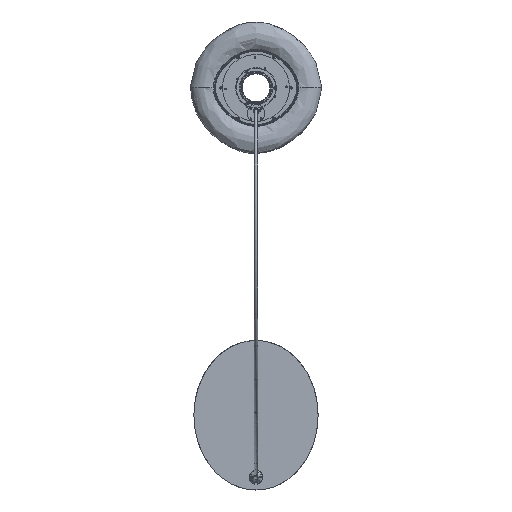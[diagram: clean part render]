
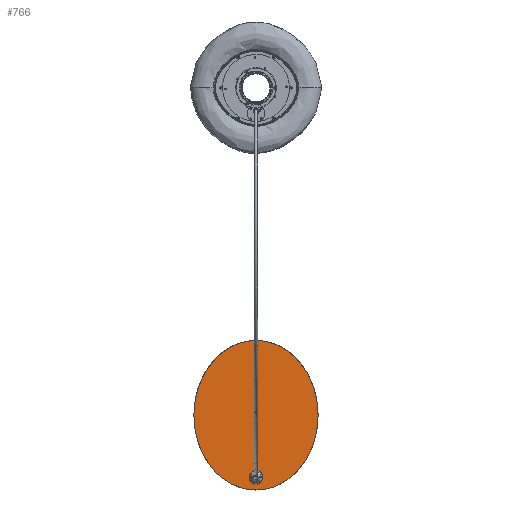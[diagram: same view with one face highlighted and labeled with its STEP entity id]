
A CAD part, top view. The second image highlights one B-rep face of the part: STEP entity #766.
In plain terms, the highlighted planar face has unit normal (0, 0, 1).
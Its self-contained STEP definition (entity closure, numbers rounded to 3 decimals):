
#766=ADVANCED_FACE($,(#1364,#866,#867),#7152,.T.);
#866=FACE_BOUND($,#1959,.T.);
#867=FACE_BOUND($,#1960,.T.);
#1364=FACE_OUTER_BOUND($,#1958,.T.);
#1958=EDGE_LOOP($,(#4491,#4492));
#1959=EDGE_LOOP($,(#4493,#4494));
#1960=EDGE_LOOP($,(#4495,#4496));
#4491=ORIENTED_EDGE($,*,*,#5799,.T.);
#4492=ORIENTED_EDGE($,*,*,#5800,.T.);
#4493=ORIENTED_EDGE($,*,*,#5797,.T.);
#4494=ORIENTED_EDGE($,*,*,#5796,.T.);
#4495=ORIENTED_EDGE($,*,*,#5805,.T.);
#4496=ORIENTED_EDGE($,*,*,#5804,.T.);
#5796=EDGE_CURVE($,#6636,#6637,#7613,.T.);
#5797=EDGE_CURVE($,#6637,#6636,#7614,.T.);
#5799=EDGE_CURVE($,#6638,#6639,#7615,.T.);
#5800=EDGE_CURVE($,#6639,#6638,#7616,.T.);
#5804=EDGE_CURVE($,#6642,#6643,#7620,.T.);
#5805=EDGE_CURVE($,#6643,#6642,#7621,.T.);
#6636=VERTEX_POINT($,#118659);
#6637=VERTEX_POINT($,#118660);
#6638=VERTEX_POINT($,#118661);
#6639=VERTEX_POINT($,#118662);
#6642=VERTEX_POINT($,#118665);
#6643=VERTEX_POINT($,#118666);
#7152=PLANE($,#9060);
#7613=(
BOUNDED_CURVE()
B_SPLINE_CURVE(2,(#118469,#118470,#118471,#118472,#118473),.UNSPECIFIED.,
.F.,.F.)
B_SPLINE_CURVE_WITH_KNOTS((3,2,3),(-10.21,-5.105,0.),
.UNSPECIFIED.)
CURVE()
GEOMETRIC_REPRESENTATION_ITEM()
RATIONAL_B_SPLINE_CURVE((1.,0.707,1.,0.707,1.))
REPRESENTATION_ITEM($)
);
#7614=(
BOUNDED_CURVE()
B_SPLINE_CURVE(2,(#118474,#118475,#118476,#118477,#118478),.UNSPECIFIED.,
.F.,.F.)
B_SPLINE_CURVE_WITH_KNOTS((3,2,3),(-20.42,-15.315,-10.21),
.UNSPECIFIED.)
CURVE()
GEOMETRIC_REPRESENTATION_ITEM()
RATIONAL_B_SPLINE_CURVE((1.,0.707,1.,0.707,1.))
REPRESENTATION_ITEM($)
);
#7615=(
BOUNDED_CURVE()
B_SPLINE_CURVE(2,(#118481,#118482,#118483,#118484,#118485),.UNSPECIFIED.,
.F.,.F.)
B_SPLINE_CURVE_WITH_KNOTS((3,2,3),(848.23,1272.345,1696.46),
.UNSPECIFIED.)
CURVE()
GEOMETRIC_REPRESENTATION_ITEM()
RATIONAL_B_SPLINE_CURVE((1.,0.707,1.,0.707,1.))
REPRESENTATION_ITEM($)
);
#7616=(
BOUNDED_CURVE()
B_SPLINE_CURVE(2,(#118486,#118487,#118488,#118489,#118490),.UNSPECIFIED.,
.F.,.F.)
B_SPLINE_CURVE_WITH_KNOTS((3,2,3),(0.,424.115,848.23),
.UNSPECIFIED.)
CURVE()
GEOMETRIC_REPRESENTATION_ITEM()
RATIONAL_B_SPLINE_CURVE((1.,0.707,1.,0.707,1.))
REPRESENTATION_ITEM($)
);
#7620=(
BOUNDED_CURVE()
B_SPLINE_CURVE(2,(#118503,#118504,#118505,#118506,#118507),.UNSPECIFIED.,
.F.,.F.)
B_SPLINE_CURVE_WITH_KNOTS((3,2,3),(-20.42,-15.315,-10.21),
.UNSPECIFIED.)
CURVE()
GEOMETRIC_REPRESENTATION_ITEM()
RATIONAL_B_SPLINE_CURVE((1.,0.707,1.,0.707,1.))
REPRESENTATION_ITEM($)
);
#7621=(
BOUNDED_CURVE()
B_SPLINE_CURVE(2,(#118508,#118509,#118510,#118511,#118512),.UNSPECIFIED.,
.F.,.F.)
B_SPLINE_CURVE_WITH_KNOTS((3,2,3),(-10.21,-5.105,0.),
.UNSPECIFIED.)
CURVE()
GEOMETRIC_REPRESENTATION_ITEM()
RATIONAL_B_SPLINE_CURVE((1.,0.707,1.,0.707,1.))
REPRESENTATION_ITEM($)
);
#9060=AXIS2_PLACEMENT_3D($,#118582,#9408,$);
#9408=DIRECTION($,(0.,0.,1.));
#118469=CARTESIAN_POINT($,(11.75,-245.,8.));
#118470=CARTESIAN_POINT($,(11.75,-241.75,8.));
#118471=CARTESIAN_POINT($,(15.,-241.75,8.));
#118472=CARTESIAN_POINT($,(18.25,-241.75,8.));
#118473=CARTESIAN_POINT($,(18.25,-245.,8.));
#118474=CARTESIAN_POINT($,(18.25,-245.,8.));
#118475=CARTESIAN_POINT($,(18.25,-248.25,8.));
#118476=CARTESIAN_POINT($,(15.,-248.25,8.));
#118477=CARTESIAN_POINT($,(11.75,-248.25,8.));
#118478=CARTESIAN_POINT($,(11.75,-245.,8.));
#118481=CARTESIAN_POINT($,(0.,-295.,8.));
#118482=CARTESIAN_POINT($,(245.,-295.,8.));
#118483=CARTESIAN_POINT($,(245.,0.,8.));
#118484=CARTESIAN_POINT($,(245.,295.,8.));
#118485=CARTESIAN_POINT($,(0.,295.,8.));
#118486=CARTESIAN_POINT($,(0.,295.,8.));
#118487=CARTESIAN_POINT($,(-245.,295.,8.));
#118488=CARTESIAN_POINT($,(-245.,0.,8.));
#118489=CARTESIAN_POINT($,(-245.,-295.,8.));
#118490=CARTESIAN_POINT($,(0.,-295.,8.));
#118503=CARTESIAN_POINT($,(-11.75,-245.,8.));
#118504=CARTESIAN_POINT($,(-11.75,-248.25,8.));
#118505=CARTESIAN_POINT($,(-15.,-248.25,8.));
#118506=CARTESIAN_POINT($,(-18.25,-248.25,8.));
#118507=CARTESIAN_POINT($,(-18.25,-245.,8.));
#118508=CARTESIAN_POINT($,(-18.25,-245.,8.));
#118509=CARTESIAN_POINT($,(-18.25,-241.75,8.));
#118510=CARTESIAN_POINT($,(-15.,-241.75,8.));
#118511=CARTESIAN_POINT($,(-11.75,-241.75,8.));
#118512=CARTESIAN_POINT($,(-11.75,-245.,8.));
#118582=CARTESIAN_POINT($,(-249.9,-300.9,8.));
#118659=CARTESIAN_POINT($,(11.75,-245.,8.));
#118660=CARTESIAN_POINT($,(18.25,-245.,8.));
#118661=CARTESIAN_POINT($,(0.,-295.,8.));
#118662=CARTESIAN_POINT($,(0.,295.,8.));
#118665=CARTESIAN_POINT($,(-11.75,-245.,8.));
#118666=CARTESIAN_POINT($,(-18.25,-245.,8.));
